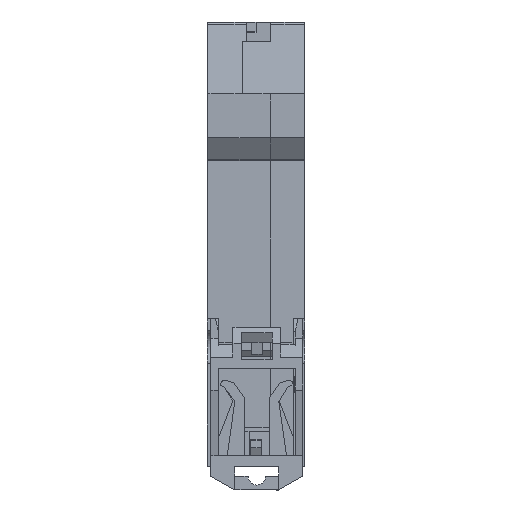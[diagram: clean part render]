
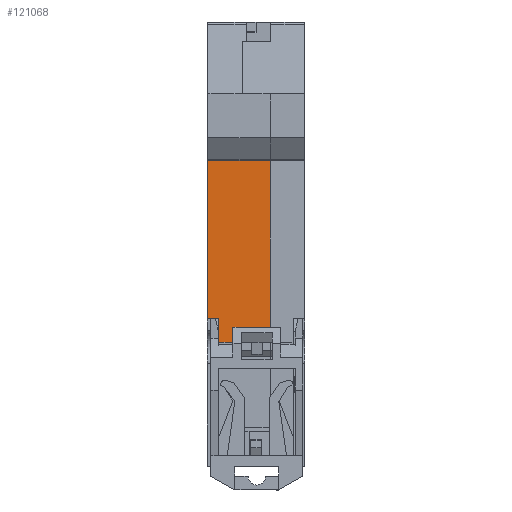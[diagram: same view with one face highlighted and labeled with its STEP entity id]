
A CAD part, left-side view. The second image highlights one B-rep face of the part: STEP entity #121068.
In plain terms, the highlighted planar face has unit normal (-1, 0, 0).
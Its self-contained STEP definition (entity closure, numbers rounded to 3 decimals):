
#7361 = VECTOR ( 'NONE', #215890, 1000. ) ;
#12190 = VECTOR ( 'NONE', #191986, 1000. ) ;
#15150 = EDGE_CURVE ( 'NONE', #18707, #196536, #69404, .T. ) ;
#17699 = DIRECTION ( 'NONE',  ( 0., 0., 1. ) ) ;
#18707 = VERTEX_POINT ( 'NONE', #196610 ) ;
#20690 = CARTESIAN_POINT ( 'NONE',  ( -2.5, 6.3, 22.6 ) ) ;
#27639 = FACE_OUTER_BOUND ( 'NONE', #82535, .T. ) ;
#33822 = LINE ( 'NONE', #173434, #56596 ) ;
#33854 = ORIENTED_EDGE ( 'NONE', *, *, #164020, .T. ) ;
#41516 = DIRECTION ( 'NONE',  ( 0., 0., -1. ) ) ;
#48200 = DIRECTION ( 'NONE',  ( 0., 0., 1. ) ) ;
#56596 = VECTOR ( 'NONE', #17699, 1000. ) ;
#56607 = DIRECTION ( 'NONE',  ( 0., -1., 0. ) ) ;
#58769 = LINE ( 'NONE', #112542, #65622 ) ;
#65622 = VECTOR ( 'NONE', #41516, 1000. ) ;
#68425 = CARTESIAN_POINT ( 'NONE',  ( -2.5, 38.9, 58.1 ) ) ;
#69404 = LINE ( 'NONE', #72811, #7361 ) ;
#72245 = EDGE_CURVE ( 'NONE', #98083, #18707, #148121, .T. ) ;
#72811 = CARTESIAN_POINT ( 'NONE',  ( -2.5, 15.65, 58.1 ) ) ;
#77578 = ORIENTED_EDGE ( 'NONE', *, *, #204127, .T. ) ;
#82535 = EDGE_LOOP ( 'NONE', ( #185629, #218128, #140620, #160095, #77578, #33854 ) ) ;
#84138 = DIRECTION ( 'NONE',  ( 0., -1., 0. ) ) ;
#89332 = VERTEX_POINT ( 'NONE', #195872 ) ;
#97889 = LINE ( 'NONE', #134489, #214089 ) ;
#98083 = VERTEX_POINT ( 'NONE', #102423 ) ;
#102423 = CARTESIAN_POINT ( 'NONE',  ( -2.5, 17.8, 26.9 ) ) ;
#112542 = CARTESIAN_POINT ( 'NONE',  ( -2.5, 17.8, 58.1 ) ) ;
#113505 = VECTOR ( 'NONE', #56607, 1000. ) ;
#116947 = PLANE ( 'NONE',  #120258 ) ;
#117535 = EDGE_CURVE ( 'NONE', #196536, #162792, #97889, .T. ) ;
#120258 = AXIS2_PLACEMENT_3D ( 'NONE', #135205, #205038, #48200 ) ;
#121068 = ADVANCED_FACE ( 'NONE', ( #27639 ), #116947, .F. ) ;
#134489 = CARTESIAN_POINT ( 'NONE',  ( -2.5, 17.8, 22.6 ) ) ;
#135205 = CARTESIAN_POINT ( 'NONE',  ( -2.5, 17.8, 58.1 ) ) ;
#140620 = ORIENTED_EDGE ( 'NONE', *, *, #117535, .T. ) ;
#148121 = LINE ( 'NONE', #149236, #113505 ) ;
#149236 = CARTESIAN_POINT ( 'NONE',  ( -2.5, 17.8, 26.9 ) ) ;
#160095 = ORIENTED_EDGE ( 'NONE', *, *, #205145, .T. ) ;
#162792 = VERTEX_POINT ( 'NONE', #20690 ) ;
#164020 = EDGE_CURVE ( 'NONE', #89332, #98083, #58769, .T. ) ;
#170770 = CARTESIAN_POINT ( 'NONE',  ( -2.5, 6.3, 58.1 ) ) ;
#172253 = VERTEX_POINT ( 'NONE', #170770 ) ;
#173434 = CARTESIAN_POINT ( 'NONE',  ( -2.5, 6.3, 58.1 ) ) ;
#185629 = ORIENTED_EDGE ( 'NONE', *, *, #72245, .T. ) ;
#191986 = DIRECTION ( 'NONE',  ( 0., 1., 0. ) ) ;
#195872 = CARTESIAN_POINT ( 'NONE',  ( -2.5, 17.8, 58.1 ) ) ;
#196536 = VERTEX_POINT ( 'NONE', #206254 ) ;
#196610 = CARTESIAN_POINT ( 'NONE',  ( -2.5, 15.65, 26.9 ) ) ;
#204127 = EDGE_CURVE ( 'NONE', #172253, #89332, #225353, .T. ) ;
#205038 = DIRECTION ( 'NONE',  ( 1., 0., 0. ) ) ;
#205145 = EDGE_CURVE ( 'NONE', #162792, #172253, #33822, .T. ) ;
#206254 = CARTESIAN_POINT ( 'NONE',  ( -2.5, 15.65, 22.6 ) ) ;
#214089 = VECTOR ( 'NONE', #84138, 1000. ) ;
#215890 = DIRECTION ( 'NONE',  ( 0., 0., -1. ) ) ;
#218128 = ORIENTED_EDGE ( 'NONE', *, *, #15150, .T. ) ;
#225353 = LINE ( 'NONE', #68425, #12190 ) ;
